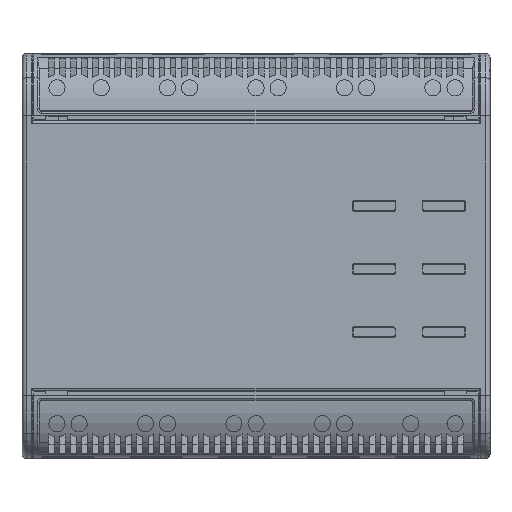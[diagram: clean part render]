
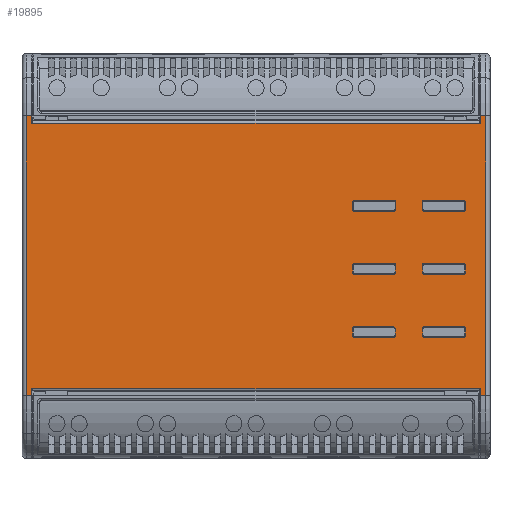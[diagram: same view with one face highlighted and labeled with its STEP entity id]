
A CAD part, top view. The second image highlights one B-rep face of the part: STEP entity #19895.
In plain terms, the highlighted planar face has unit normal (0, 0, 1).
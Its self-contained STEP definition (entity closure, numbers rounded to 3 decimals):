
#1709=FACE_OUTER_BOUND($,#2533,.T.);
#2533=EDGE_LOOP($,(#14744,#14745,#14746,#14747,#14748,#14749,#14750,#14751,
#14752,#14753,#14754,#14755));
#3731=LINE($,#29164,#5984);
#3750=LINE($,#29205,#6003);
#3752=LINE($,#29212,#6005);
#3755=LINE($,#29233,#6008);
#3783=LINE($,#29345,#6036);
#3784=LINE($,#29350,#6037);
#3785=LINE($,#29352,#6038);
#3786=LINE($,#29353,#6039);
#3787=LINE($,#29354,#6040);
#3788=LINE($,#29355,#6041);
#3789=LINE($,#29356,#6042);
#3790=LINE($,#29357,#6043);
#5984=VECTOR($,#23261,103.1);
#6003=VECTOR($,#23300,1.2);
#6005=VECTOR($,#23308,1.2);
#6008=VECTOR($,#23331,1.2);
#6036=VECTOR($,#23385,1.2);
#6037=VECTOR($,#23392,1.641);
#6038=VECTOR($,#23393,103.1);
#6039=VECTOR($,#23394,1.641);
#6040=VECTOR($,#23395,64.282);
#6041=VECTOR($,#23396,1.641);
#6042=VECTOR($,#23397,1.641);
#6043=VECTOR($,#23398,64.282);
#7988=VERTEX_POINT($,#28802);
#8002=VERTEX_POINT($,#28835);
#8121=VERTEX_POINT($,#29141);
#8123=VERTEX_POINT($,#29155);
#8135=VERTEX_POINT($,#29204);
#8137=VERTEX_POINT($,#29210);
#8142=VERTEX_POINT($,#29223);
#8145=VERTEX_POINT($,#29231);
#8177=VERTEX_POINT($,#29343);
#8178=VERTEX_POINT($,#29344);
#8179=VERTEX_POINT($,#29349);
#8180=VERTEX_POINT($,#29351);
#10751=EDGE_CURVE($,#8123,#8121,#3731,.T.);
#10772=EDGE_CURVE($,#7988,#8135,#3750,.T.);
#10776=EDGE_CURVE($,#8137,#8002,#3752,.T.);
#10786=EDGE_CURVE($,#8145,#8142,#3755,.T.);
#10823=EDGE_CURVE($,#8177,#8178,#3783,.T.);
#10826=EDGE_CURVE($,#8179,#8177,#3784,.T.);
#10827=EDGE_CURVE($,#8180,#8179,#3785,.T.);
#10828=EDGE_CURVE($,#8002,#8180,#3786,.T.);
#10829=EDGE_CURVE($,#8135,#8137,#3787,.T.);
#10830=EDGE_CURVE($,#8121,#7988,#3788,.T.);
#10831=EDGE_CURVE($,#8142,#8123,#3789,.T.);
#10832=EDGE_CURVE($,#8178,#8145,#3790,.T.);
#14744=ORIENTED_EDGE($,*,*,#10826,.F.);
#14745=ORIENTED_EDGE($,*,*,#10827,.F.);
#14746=ORIENTED_EDGE($,*,*,#10828,.F.);
#14747=ORIENTED_EDGE($,*,*,#10776,.F.);
#14748=ORIENTED_EDGE($,*,*,#10829,.F.);
#14749=ORIENTED_EDGE($,*,*,#10772,.F.);
#14750=ORIENTED_EDGE($,*,*,#10830,.F.);
#14751=ORIENTED_EDGE($,*,*,#10751,.F.);
#14752=ORIENTED_EDGE($,*,*,#10831,.F.);
#14753=ORIENTED_EDGE($,*,*,#10786,.F.);
#14754=ORIENTED_EDGE($,*,*,#10832,.F.);
#14755=ORIENTED_EDGE($,*,*,#10823,.F.);
#19294=PLANE($,#20844);
#19895=ADVANCED_FACE($,(#1709),#19294,.F.);
#20844=AXIS2_PLACEMENT_3D($,#29348,#23390,#23391);
#23261=DIRECTION($,(1.,0.,0.));
#23300=DIRECTION($,(1.,0.,0.));
#23308=DIRECTION($,(-1.,0.,0.));
#23331=DIRECTION($,(1.,0.,0.));
#23385=DIRECTION($,(-1.,0.,0.));
#23390=DIRECTION('center_axis',(0.,0.,-1.));
#23391=DIRECTION('ref_axis',(-1.,0.,0.));
#23392=DIRECTION($,(0.,-1.,0.));
#23393=DIRECTION($,(-1.,0.,0.));
#23394=DIRECTION($,(0.,1.,0.));
#23395=DIRECTION($,(0.,-1.,0.));
#23396=DIRECTION($,(0.,1.,0.));
#23397=DIRECTION($,(0.,-1.,0.));
#23398=DIRECTION($,(0.,1.,0.));
#28802=CARTESIAN_POINT('',(105.3,77.141,110.1));
#28835=CARTESIAN_POINT('',(105.3,12.859,110.1));
#29141=CARTESIAN_POINT('',(105.3,75.5,110.1));
#29155=CARTESIAN_POINT('',(2.2,75.5,110.1));
#29164=CARTESIAN_POINT($,(107.5,75.5,110.1));
#29204=CARTESIAN_POINT('',(106.5,77.141,110.1));
#29205=CARTESIAN_POINT($,(105.,77.141,110.1));
#29210=CARTESIAN_POINT('',(106.5,12.859,110.1));
#29212=CARTESIAN_POINT($,(105.,12.859,110.1));
#29223=CARTESIAN_POINT('',(2.2,77.141,110.1));
#29231=CARTESIAN_POINT('',(1.,77.141,110.1));
#29233=CARTESIAN_POINT($,(2.5,77.141,110.1));
#29343=CARTESIAN_POINT('',(2.2,12.859,110.1));
#29344=CARTESIAN_POINT('',(1.,12.859,110.1));
#29345=CARTESIAN_POINT($,(2.5,12.859,110.1));
#29348=CARTESIAN_POINT('Origin',(107.5,76.,110.1));
#29349=CARTESIAN_POINT('',(2.2,14.5,110.1));
#29350=CARTESIAN_POINT($,(2.2,76.,110.1));
#29351=CARTESIAN_POINT('',(105.3,14.5,110.1));
#29352=CARTESIAN_POINT($,(107.5,14.5,110.1));
#29353=CARTESIAN_POINT($,(105.3,76.,110.1));
#29354=CARTESIAN_POINT($,(106.5,91.5,110.1));
#29355=CARTESIAN_POINT($,(105.3,76.,110.1));
#29356=CARTESIAN_POINT($,(2.2,76.,110.1));
#29357=CARTESIAN_POINT($,(1.,76.,110.1));
